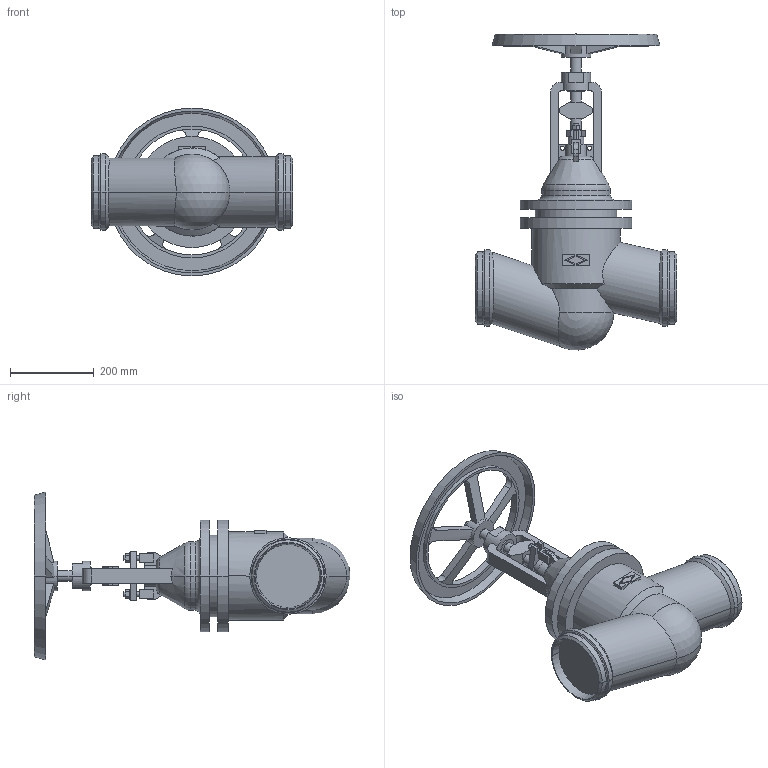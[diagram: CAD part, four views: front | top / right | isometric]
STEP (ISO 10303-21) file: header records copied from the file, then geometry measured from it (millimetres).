
FILE_DESCRIPTION(('OneSpaceDesigner STEP Export'),'2;1');
FILE_NAME('c000004335.stp','2010-05-06T10:57:47',(''),(''),'OneSpace Designer STEP processor for AP214 (Solid Model)','OneSpace Modeling 15.50B 03-Nov-2007 (C) CoCreate Software GmbH','');
FILE_SCHEMA(('AUTOMOTIVE_DESIGN { 1 0 10303 214 1 1 1 1 }'));
Length unit declared in the file: millimetre
Products named in the file (1): 1
Bounding box: 480 x 752.7 x 400 mm (x, y, z)
Volume: 20807393.9 mm3; surface area: 937410.5 mm2
Topology: 1 solids, 1 shells, 286 faces, 737 edges, 472 vertices
Faces by surface type: plane 145, cylinder 89, cone 38, torus 12, sphere 2
Entity records: 11266 total; most frequent: CARTESIAN_POINT 2460, ORIENTED_EDGE 1470, DIRECTION 1200, EDGE_CURVE 735, VERTEX_POINT 472, AXIS2_PLACEMENT_3D 401, VECTOR 398, LINE 398
